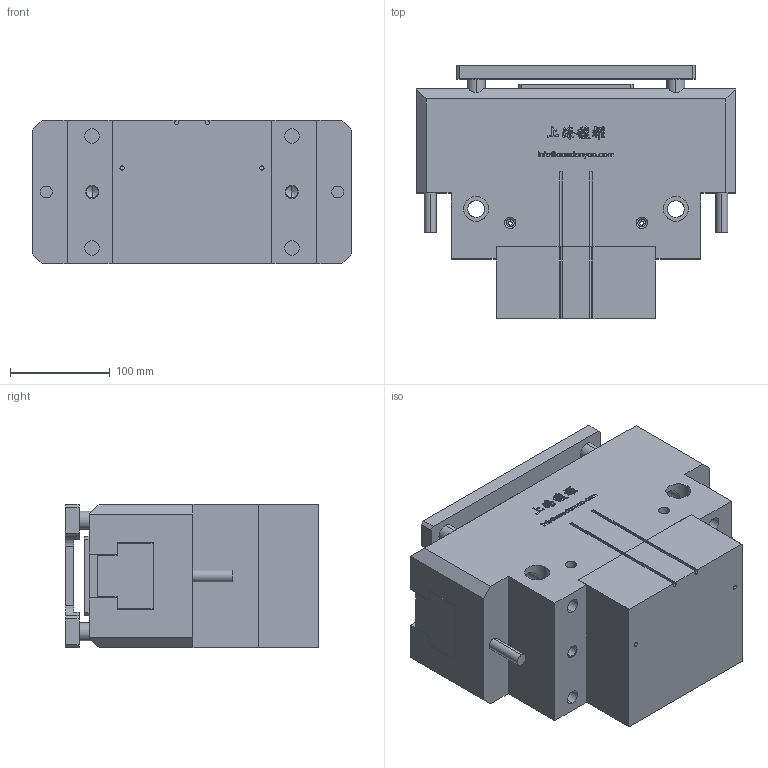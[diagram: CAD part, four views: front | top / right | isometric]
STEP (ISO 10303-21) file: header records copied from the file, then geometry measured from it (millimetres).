
FILE_DESCRIPTION (( 'STEP AP203' ), '1' );
FILE_NAME ('OPP2-320-C1-P-MC&MA-原始檔-組合-W106.04.19.STEP', '2017-04-19T06:58:38', ( 'DanyaoCAD' ), ( '' ), 'SwSTEP 2.0', 'SolidWorks 2016', '' );
FILE_SCHEMA (( 'CONFIG_CONTROL_DESIGN' ));
Length unit declared in the file: millimetre
Products named in the file (6): OPP2-320-C1-P-MC&MA-原始檔-組合-W106.04.19; Piattello; Corpo; Coperchio; Griffa; Fondello
Assembly tree (6 placements, depth 2):
  OPP2-320-C1-P-MC&MA-原始檔-組合-W106.04.19
    Piattello
    Corpo
    Coperchio
    Griffa  x2
    Fondello
Bounding box: 320 x 254 x 144 mm (x, y, z)
Volume: 8343502.9 mm3; surface area: 629391.2 mm2
Topology: 6 solids, 6 shells, 1147 faces, 3172 edges, 2078 vertices
Faces by surface type: bspline 640, plane 323, cylinder 128, cone 56
Entity records: 52595 total; most frequent: CARTESIAN_POINT 28111, ORIENTED_EDGE 6058, EDGE_CURVE 3029, DIRECTION 2917, VERTEX_POINT 2004, LINE 1457, VECTOR 1457, B_SPLINE_CURVE_WITH_KNOTS 1304
